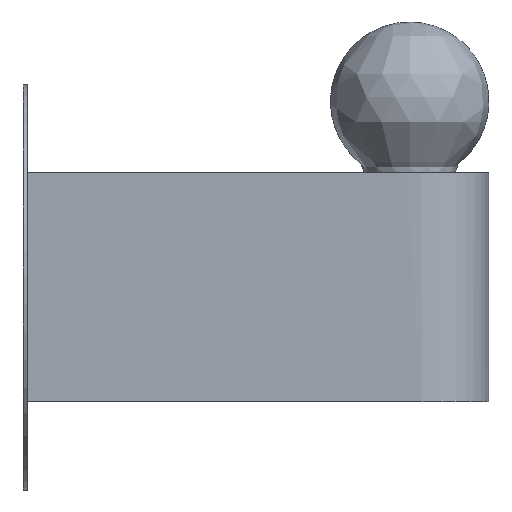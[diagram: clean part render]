
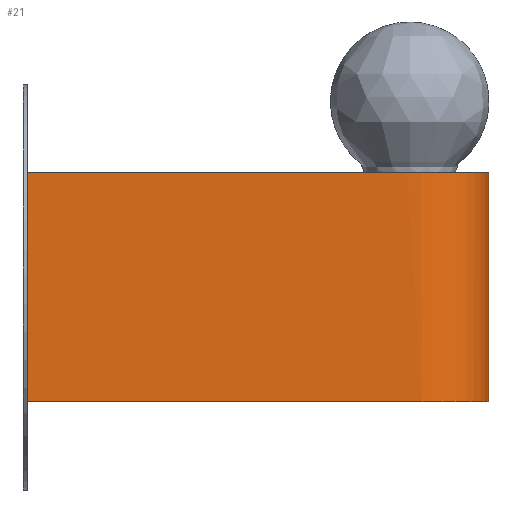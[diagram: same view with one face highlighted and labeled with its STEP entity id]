
A CAD part, left-side view. The second image highlights one B-rep face of the part: STEP entity #21.
In plain terms, the highlighted free-form (B-spline) face has degree [1, 2] with [2, 9] control points.
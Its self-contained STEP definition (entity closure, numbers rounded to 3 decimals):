
#21=ADVANCED_FACE('',(#31),#133,.T.);
#31=FACE_OUTER_BOUND('',#43,.T.);
#43=EDGE_LOOP('',(#60,#61,#62,#63));
#60=ORIENTED_EDGE('',*,*,#89,.T.);
#61=ORIENTED_EDGE('',*,*,#93,.F.);
#62=ORIENTED_EDGE('',*,*,#91,.T.);
#63=ORIENTED_EDGE('',*,*,#92,.F.);
#89=EDGE_CURVE('',#119,#118,#143,.T.);
#91=EDGE_CURVE('',#121,#120,#145,.T.);
#92=EDGE_CURVE('',#119,#120,#105,.T.);
#93=EDGE_CURVE('',#121,#118,#106,.T.);
#105=(
BOUNDED_CURVE()
B_SPLINE_CURVE(2,(#503,#504,#505,#506,#507,#508,#509,#510,#511),
 .UNSPECIFIED.,.F.,.F.)
B_SPLINE_CURVE_WITH_KNOTS((3,2,2,2,3),(-290.827,-182.327,
-145.414,-108.5,0.),.UNSPECIFIED.)
CURVE()
GEOMETRIC_REPRESENTATION_ITEM()
RATIONAL_B_SPLINE_CURVE((1.,1.,1.,0.707,1.,0.707,
1.,1.,1.))
REPRESENTATION_ITEM('')
);
#106=(
BOUNDED_CURVE()
B_SPLINE_CURVE(2,(#512,#513,#514,#515,#516,#517,#518,#519,#520),
 .UNSPECIFIED.,.F.,.F.)
B_SPLINE_CURVE_WITH_KNOTS((3,2,2,2,3),(0.,108.5,145.414,182.327,
290.827),.UNSPECIFIED.)
CURVE()
GEOMETRIC_REPRESENTATION_ITEM()
RATIONAL_B_SPLINE_CURVE((1.,1.,1.,0.707,1.,0.707,
1.,1.,1.))
REPRESENTATION_ITEM('')
);
#118=VERTEX_POINT('',#463);
#119=VERTEX_POINT('',#464);
#120=VERTEX_POINT('',#465);
#121=VERTEX_POINT('',#466);
#133=(
BOUNDED_SURFACE()
B_SPLINE_SURFACE(1,2,((#304,#305,#306,#307,#308,#309,#310,#311,#312),(#313,
#314,#315,#316,#317,#318,#319,#320,#321)),.UNSPECIFIED.,.F.,.F.,.F.)
B_SPLINE_SURFACE_WITH_KNOTS((2,2),(3,2,2,2,3),(0.,552.844),(-290.827,
-182.327,-145.414,-108.5,0.),.UNSPECIFIED.)
GEOMETRIC_REPRESENTATION_ITEM()
RATIONAL_B_SPLINE_SURFACE(((1.,1.,1.,0.707,1.,0.707,
1.,1.,1.),(1.,1.,1.,0.707,1.,0.707,1.,1.,1.)))
REPRESENTATION_ITEM('')
SURFACE()
);
#143=B_SPLINE_CURVE_WITH_KNOTS('',1,(#497,#498),.UNSPECIFIED.,.F.,.F.,(2,
2),(375.,440.),.UNSPECIFIED.);
#145=B_SPLINE_CURVE_WITH_KNOTS('',1,(#501,#502),.UNSPECIFIED.,.F.,.F.,(2,
2),(265.,330.),.UNSPECIFIED.);
#304=CARTESIAN_POINT('',(22.545,65.536,-365.882));
#305=CARTESIAN_POINT('',(22.545,11.286,-365.882));
#306=CARTESIAN_POINT('',(22.545,-42.964,-365.882));
#307=CARTESIAN_POINT('',(22.545,-65.464,-365.882));
#308=CARTESIAN_POINT('',(0.045,-65.464,-365.882));
#309=CARTESIAN_POINT('',(-22.455,-65.464,-365.882));
#310=CARTESIAN_POINT('',(-22.455,-42.964,-365.882));
#311=CARTESIAN_POINT('',(-22.455,11.286,-365.882));
#312=CARTESIAN_POINT('',(-22.455,65.536,-365.882));
#313=CARTESIAN_POINT('',(22.545,65.536,186.961));
#314=CARTESIAN_POINT('',(22.545,11.286,186.961));
#315=CARTESIAN_POINT('',(22.545,-42.964,186.961));
#316=CARTESIAN_POINT('',(22.545,-65.464,186.961));
#317=CARTESIAN_POINT('',(0.045,-65.464,186.961));
#318=CARTESIAN_POINT('',(-22.455,-65.464,186.961));
#319=CARTESIAN_POINT('',(-22.455,-42.964,186.961));
#320=CARTESIAN_POINT('',(-22.455,11.286,186.961));
#321=CARTESIAN_POINT('',(-22.455,65.536,186.961));
#463=CARTESIAN_POINT('',(22.545,65.536,65.));
#464=CARTESIAN_POINT('',(22.545,65.536,0.));
#465=CARTESIAN_POINT('',(-22.455,65.536,0.));
#466=CARTESIAN_POINT('',(-22.455,65.536,65.));
#497=CARTESIAN_POINT('',(22.545,65.536,0.));
#498=CARTESIAN_POINT('',(22.545,65.536,65.));
#501=CARTESIAN_POINT('',(-22.455,65.536,65.));
#502=CARTESIAN_POINT('',(-22.455,65.536,0.));
#503=CARTESIAN_POINT('',(22.545,65.536,0.));
#504=CARTESIAN_POINT('',(22.545,11.286,0.));
#505=CARTESIAN_POINT('',(22.545,-42.964,0.));
#506=CARTESIAN_POINT('',(22.545,-65.464,0.));
#507=CARTESIAN_POINT('',(0.045,-65.464,0.));
#508=CARTESIAN_POINT('',(-22.455,-65.464,0.));
#509=CARTESIAN_POINT('',(-22.455,-42.964,0.));
#510=CARTESIAN_POINT('',(-22.455,11.286,0.));
#511=CARTESIAN_POINT('',(-22.455,65.536,0.));
#512=CARTESIAN_POINT('',(-22.455,65.536,65.));
#513=CARTESIAN_POINT('',(-22.455,11.286,65.));
#514=CARTESIAN_POINT('',(-22.455,-42.964,65.));
#515=CARTESIAN_POINT('',(-22.455,-65.464,65.));
#516=CARTESIAN_POINT('',(0.045,-65.464,65.));
#517=CARTESIAN_POINT('',(22.545,-65.464,65.));
#518=CARTESIAN_POINT('',(22.545,-42.964,65.));
#519=CARTESIAN_POINT('',(22.545,11.286,65.));
#520=CARTESIAN_POINT('',(22.545,65.536,65.));
